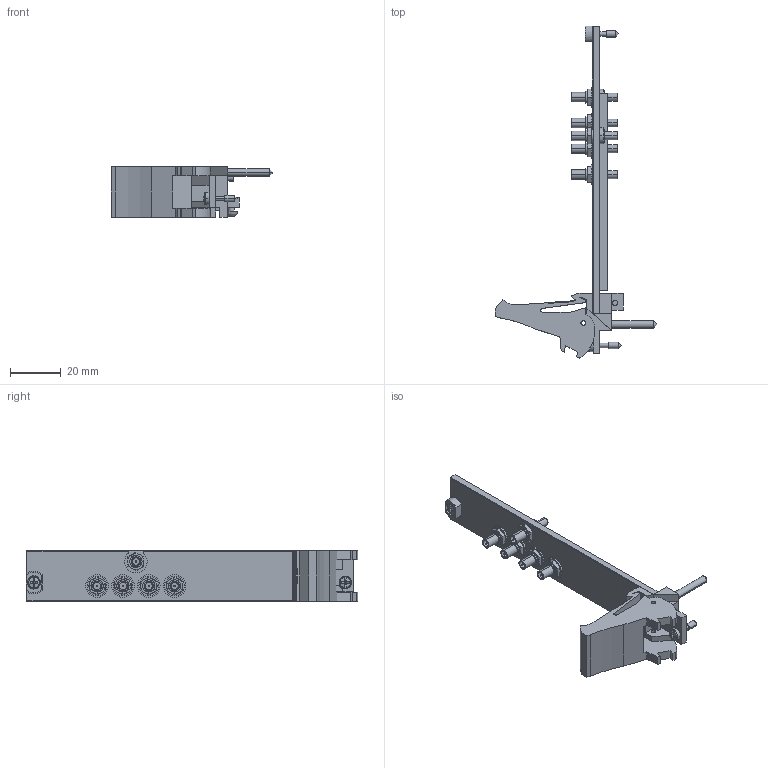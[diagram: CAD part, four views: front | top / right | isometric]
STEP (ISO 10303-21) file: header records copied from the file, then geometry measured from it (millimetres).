
FILE_DESCRIPTION((''),'2;1');
FILE_NAME('CU_PXI-2554','2009-10-06T',('jjorden'),(''),'PRO/ENGINEER BY PARAMETRIC TECHNOLOGY CORPORATION, 2006080','PRO/ENGINEER BY PARAMETRIC TECHNOLOGY CORPORATION, 2006080','');
FILE_SCHEMA(('CONFIG_CONTROL_DESIGN'));
Length unit declared in the file: inch
Products named in the file (1): CU_PXI-2554
Bounding box: 63.53 x 130.5 x 20.02 mm (x, y, z)
Volume: 15822.2 mm3; surface area: 14976.1 mm2
Topology: 2 solids, 2 shells, 677 faces, 1802 edges, 1140 vertices
Faces by surface type: plane 395, cylinder 218, cone 44, sphere 8, torus 6, bspline 6
Entity records: 23603 total; most frequent: CARTESIAN_POINT 6291, DIRECTION 3649, ORIENTED_EDGE 3588, EDGE_CURVE 1794, AXIS2_PLACEMENT_3D 1275, VERTEX_POINT 1159, VECTOR 1099, LINE 1099
